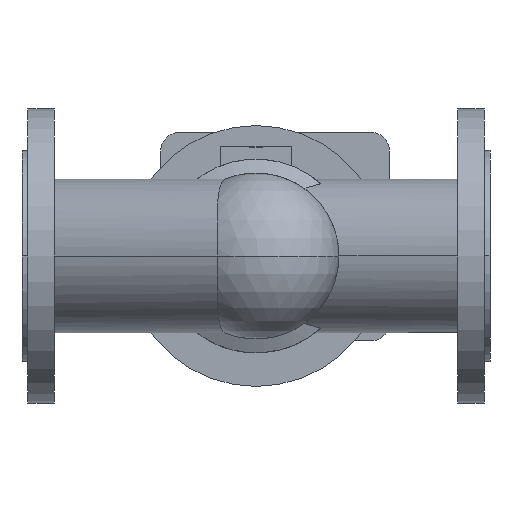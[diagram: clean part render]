
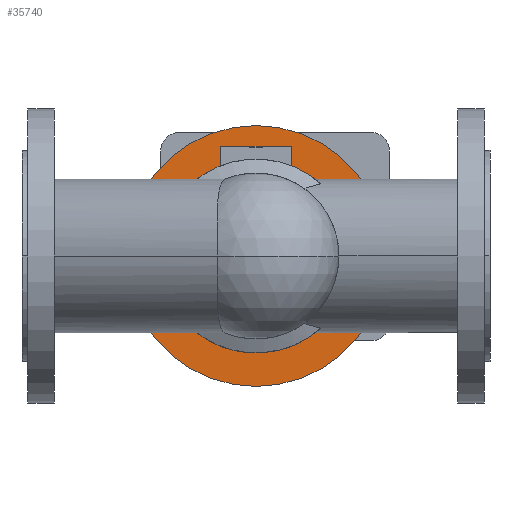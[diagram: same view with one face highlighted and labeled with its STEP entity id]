
A CAD part, front view. The second image highlights one B-rep face of the part: STEP entity #35740.
In plain terms, the highlighted planar face has unit normal (0, -1, 0).
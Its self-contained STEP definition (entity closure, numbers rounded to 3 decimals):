
#1450=CARTESIAN_POINT('',(102.5,89.3,0.));
#1460=VERTEX_POINT('',#1450);
#1490=CARTESIAN_POINT('',(175.,89.3,0.));
#1500=DIRECTION('',(0.,-1.,0.));
#1510=DIRECTION('',(-1.,0.,0.));
#1520=AXIS2_PLACEMENT_3D('',#1490,#1500,#1510);
#1530=CIRCLE('',#1520,72.5);
#1540=CARTESIAN_POINT('',(247.5,89.3,0.));
#1550=VERTEX_POINT('',#1540);
#1560=EDGE_CURVE('',#1550,#1460,#1530,.T.);
#20920=CARTESIAN_POINT('',(272.5,89.3,0.));
#20930=VERTEX_POINT('',#20920);
#20960=CARTESIAN_POINT('',(175.,89.3,0.));
#20970=DIRECTION('',(0.,-1.,0.));
#20980=DIRECTION('',(1.,0.,0.));
#20990=AXIS2_PLACEMENT_3D('',#20960,#20970,#20980);
#21000=CIRCLE('',#20990,97.5);
#21010=CARTESIAN_POINT('',(77.5,89.3,0.));
#21020=VERTEX_POINT('',#21010);
#21030=EDGE_CURVE('',#20930,#21020,#21000,.T.);
#35590=CARTESIAN_POINT('',(89.5,89.3,0.));
#35600=DIRECTION('',(0.,-1.,0.));
#35610=DIRECTION('',(-1.,0.,0.));
#35620=AXIS2_PLACEMENT_3D('',#35590,#35600,#35610);
#35630=PLANE('',#35620);
#35640=ORIENTED_EDGE('',*,*,#21030,.T.);
#35650=EDGE_CURVE('',#21020,#20930,#21000,.T.);
#35660=ORIENTED_EDGE('',*,*,#35650,.T.);
#35670=EDGE_LOOP('',(#35660,#35640));
#35680=FACE_OUTER_BOUND('',#35670,.T.);
#35690=EDGE_CURVE('',#1460,#1550,#1530,.T.);
#35700=ORIENTED_EDGE('',*,*,#35690,.F.);
#35710=ORIENTED_EDGE('',*,*,#1560,.F.);
#35720=EDGE_LOOP('',(#35710,#35700));
#35730=FACE_BOUND('',#35720,.T.);
#35740=ADVANCED_FACE('',(#35680,#35730),#35630,.T.);
